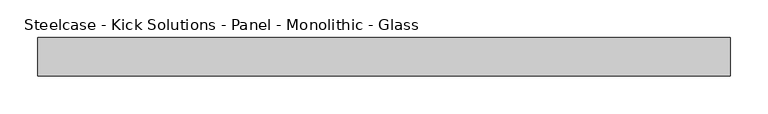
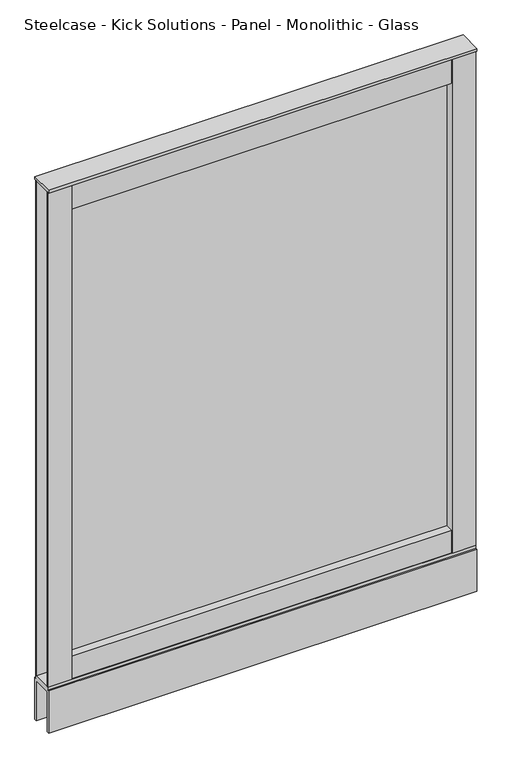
"""IFC4 building model written with IfcOpenShell, lengths in millimetres: furniture geometry, Steelcase - Kick Solutions - Panel - Monolithic - Glass : 48H x 36W."""

from ifc_helpers import new_model, si_unit, frame, origin, place, context, project, spatial, polyline, outline, extrude, source, transform, mapped, element, save


def steelcase_kick_solutions_panel_monolithic_glass_200e26c2(model_context):
    return source(origin(), model_context, "Body", "SweptSolid", [
        extrude(outline(polyline([(863.6006661, -5.08), (863.6006661, -45.7200015), (50.8006646, -45.7200015), (50.8006646, -5.08), (863.6006661, -5.08)])), frame((0.0, 0.0, 101.7169049), z_axis=(0.0, 0.0, 1.0), x_axis=(1.0, 0.0, 0.0)), (0.0, 0.0, 1.0), 50.6830951),
        extrude(outline(polyline([(863.6006661, -5.08), (863.6006661, -45.7200015), (50.8006646, -45.7200015), (50.8006646, -5.08), (863.6006661, -5.08)])), frame((0.0, 0.0, 1162.05), z_axis=(0.0, 0.0, 1.0), x_axis=(1.0, 0.0, 0.0)), (0.0, 0.0, 1.0), 57.15),
        extrude(outline(polyline([(50.8006646, -3.1743148), (50.8006646, -47.6243142), (0.0, -47.6243142), (0.0, -45.7200015), (47.7526646, -45.7200015), (47.7526646, -5.08), (0.0, -5.08), (0.0, -3.1743148), (50.8006646, -3.1743148)])), frame((0.0, 0.0, 101.7169049), z_axis=(0.0, 0.0, 1.0), x_axis=(1.0, 0.0, 0.0)), (0.0, 0.0, 1.0), 1117.4830951),
        extrude(outline(polyline([(863.6006661, -3.1743148), (914.4, -3.1743148), (914.4, -5.08), (866.6486661, -5.08), (866.6486661, -45.7200015), (914.4, -45.7200015), (914.4, -47.6243142), (863.6006661, -47.6243142), (863.6006661, -3.1743148)])), frame((0.0, 0.0, 101.7169049), z_axis=(0.0, 0.0, 1.0), x_axis=(1.0, 0.0, 0.0)), (0.0, 0.0, 1.0), 1117.4830951),
        extrude(outline(polyline([(863.6006661, -28.422537), (50.8006646, -28.422537), (50.8006646, -25.4), (863.6006661, -25.4), (863.6006661, -28.422537)])), frame((0.0, 0.0, 152.4), z_axis=(0.0, 0.0, 1.0), x_axis=(1.0, 0.0, 0.0)), (0.0, 0.0, 1.0), 1009.65),
        extrude(outline(polyline([(914.4, 0.0), (914.4, -50.8000015), (0.0, -50.8000015), (0.0, 0.0), (914.4, 0.0)])), frame((0.0, 0.0, 1219.2), z_axis=(0.0, 0.0, 1.0), x_axis=(1.0, 0.0, 0.0)), (0.0, 0.0, 1.0), 6.35),
        extrude(outline(polyline([(0.0, 0.0), (-5.08, 0.0), (-5.08, 90.2869018), (-45.7200015, 90.2869018), (-45.7200015, 0.0), (-50.8000015, 0.0), (-50.8000015, 95.3669018), (-47.6243142, 95.3669018), (-47.6243142, 101.7169049), (-3.1743148, 101.7169049), (-3.1743148, 95.3669018), (0.0, 95.3669018), (0.0, 0.0)])), frame((0.0, 0.0, 0.0), z_axis=(1.0, 0.0, 0.0), x_axis=(0.0, 1.0, 0.0)), (0.0, 0.0, 1.0), 914.4),
    ])


if __name__ == "__main__":
    model = new_model("IFC4")
    model_context = context("Model", 3, world=origin())
    ifc_project = project(units=[si_unit("LENGTHUNIT", "METRE", prefix="MILLI")], contexts=[model_context])
    site = spatial("IfcSite", under=ifc_project)
    building = spatial("IfcBuilding", under=site)
    placement = place(None, origin())
    steelcase_kick_solutions_panel_monolithic_glass_shape = steelcase_kick_solutions_panel_monolithic_glass_200e26c2(model_context)
    element("IfcFurniture", 1, ObjectType="Steelcase - Kick Solutions - Panel - Monolithic - Glass : 48H x 36W", at=placement, inside=building, context=model_context, shape_type="MappedRepresentation", body=[
        mapped(steelcase_kick_solutions_panel_monolithic_glass_shape, transform((0.0, 0.0, 0.0), x_axis=(1.0, 0.0, 0.0), y_axis=(0.0, 1.0, 0.0), z_axis=(0.0, 0.0, 1.0))),
    ])
    save(model, "model.ifc")
